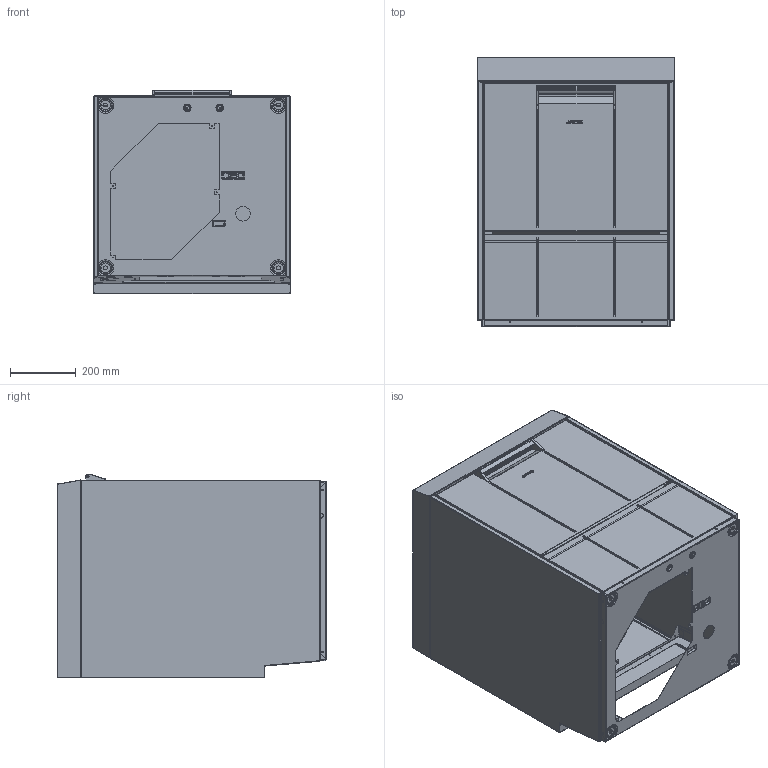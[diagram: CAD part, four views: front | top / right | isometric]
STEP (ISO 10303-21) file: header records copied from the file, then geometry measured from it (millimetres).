
FILE_DESCRIPTION (( 'STEP AP203' ), '1' );
FILE_NAME ('UD520D.STEP', '2017-07-04T09:45:06', ( '' ), ( '' ), 'SwSTEP 2.0', 'SolidWorks 2016', '' );
FILE_SCHEMA (( 'CONFIG_CONTROL_DESIGN' ));
Length unit declared in the file: millimetre
Products named in the file (11): Spalla Maniglia SX; Basamento; Spalla Maniglia DX_DX; Pannello Retro; UD520D; Pannello; TOP_Sezione; Fianco-SX_dx; Fianco-DX; Portina; Maniglia
Assembly tree (10 placements, depth 2):
  UD520D
    Basamento
    Pannello Retro
    Pannello
    TOP_Sezione
    Fianco-SX_dx
    Fianco-DX
    Portina
    Maniglia
    Spalla Maniglia SX
    Spalla Maniglia DX_DX
Bounding box: 598 x 818.7 x 618.75 mm (x, y, z)
Volume: 2430671.4 mm3; surface area: 5724626.5 mm2
Topology: 10 solids, 10 shells, 2090 faces, 5352 edges, 3277 vertices
Faces by surface type: plane 971, cylinder 875, bspline 118, torus 68, cone 38, sphere 20
Entity records: 67018 total; most frequent: CARTESIAN_POINT 14848, DIRECTION 10753, ORIENTED_EDGE 10664, EDGE_CURVE 5332, AXIS2_PLACEMENT_3D 3771, VERTEX_POINT 3277, LINE 3211, VECTOR 3211
